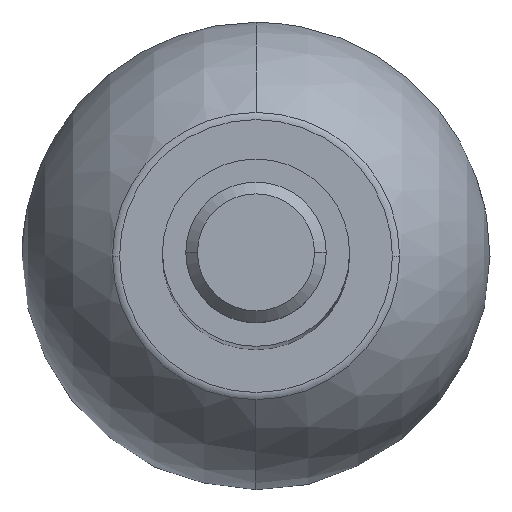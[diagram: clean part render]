
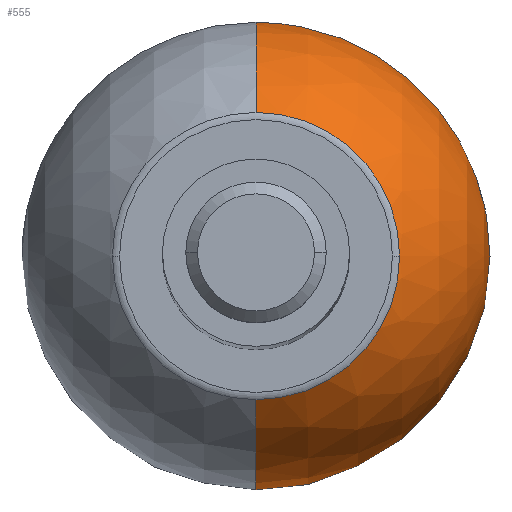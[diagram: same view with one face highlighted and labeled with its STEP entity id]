
A CAD part, top view. The second image highlights one B-rep face of the part: STEP entity #555.
In plain terms, the highlighted spherical face has radius 10 mm.
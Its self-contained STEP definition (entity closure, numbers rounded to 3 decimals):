
#8 = CIRCLE ( 'NONE', #181, 10. ) ;
#18 = EDGE_CURVE ( 'NONE', #145, #211, #68, .T. ) ;
#37 = CARTESIAN_POINT ( 'NONE',  ( 0., 0., -82.105 ) ) ;
#41 = EDGE_CURVE ( 'NONE', #457, #145, #117, .T. ) ;
#42 = DIRECTION ( 'NONE',  ( 0., 1., 0. ) ) ;
#44 = DIRECTION ( 'NONE',  ( 0., 0., 1. ) ) ;
#58 = ORIENTED_EDGE ( 'NONE', *, *, #511, .T. ) ;
#68 = CIRCLE ( 'NONE', #348, 6.138 ) ;
#74 = CIRCLE ( 'NONE', #383, 10. ) ;
#105 = DIRECTION ( 'NONE',  ( -1., 0., 0. ) ) ;
#117 = CIRCLE ( 'NONE', #241, 6.138 ) ;
#121 = EDGE_LOOP ( 'NONE', ( #338, #58, #413, #448 ) ) ;
#145 = VERTEX_POINT ( 'NONE', #517 ) ;
#151 = CARTESIAN_POINT ( 'NONE',  ( 0., -6.138, -82.105 ) ) ;
#181 = AXIS2_PLACEMENT_3D ( 'NONE', #486, #105, #409 ) ;
#196 = DIRECTION ( 'NONE',  ( 1., 0., 0. ) ) ;
#211 = VERTEX_POINT ( 'NONE', #484 ) ;
#217 = DIRECTION ( 'NONE',  ( -1., 0., 0. ) ) ;
#222 = AXIS2_PLACEMENT_3D ( 'NONE', #398, #217, #42 ) ;
#241 = AXIS2_PLACEMENT_3D ( 'NONE', #37, #44, #481 ) ;
#268 = EDGE_CURVE ( 'NONE', #307, #457, #8, .T. ) ;
#285 = FACE_OUTER_BOUND ( 'NONE', #121, .T. ) ;
#306 = DIRECTION ( 'NONE',  ( 1., 0., 0. ) ) ;
#307 = VERTEX_POINT ( 'NONE', #506 ) ;
#324 = CARTESIAN_POINT ( 'NONE',  ( 0., 0., -90. ) ) ;
#338 = ORIENTED_EDGE ( 'NONE', *, *, #268, .F. ) ;
#340 = DIRECTION ( 'NONE',  ( 0., 0., 1. ) ) ;
#348 = AXIS2_PLACEMENT_3D ( 'NONE', #438, #340, #306 ) ;
#370 = DIRECTION ( 'NONE',  ( 0., 0., -1. ) ) ;
#383 = AXIS2_PLACEMENT_3D ( 'NONE', #324, #196, #370 ) ;
#398 = CARTESIAN_POINT ( 'NONE',  ( 0., 0., -90. ) ) ;
#409 = DIRECTION ( 'NONE',  ( 0., -1., 0. ) ) ;
#413 = ORIENTED_EDGE ( 'NONE', *, *, #18, .F. ) ;
#438 = CARTESIAN_POINT ( 'NONE',  ( 0., 0., -82.105 ) ) ;
#439 = SPHERICAL_SURFACE ( 'NONE', #222, 10. ) ;
#448 = ORIENTED_EDGE ( 'NONE', *, *, #41, .F. ) ;
#457 = VERTEX_POINT ( 'NONE', #151 ) ;
#481 = DIRECTION ( 'NONE',  ( 1., 0., 0. ) ) ;
#484 = CARTESIAN_POINT ( 'NONE',  ( 0., 6.138, -82.105 ) ) ;
#486 = CARTESIAN_POINT ( 'NONE',  ( 0., 0., -90. ) ) ;
#506 = CARTESIAN_POINT ( 'NONE',  ( 0., 0., -100. ) ) ;
#511 = EDGE_CURVE ( 'NONE', #307, #211, #74, .T. ) ;
#517 = CARTESIAN_POINT ( 'NONE',  ( 6.138, 0., -82.105 ) ) ;
#555 = ADVANCED_FACE ( 'NONE', ( #285 ), #439, .T. ) ;
